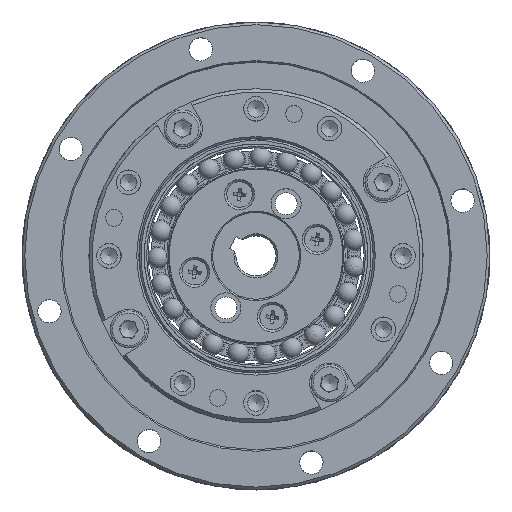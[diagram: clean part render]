
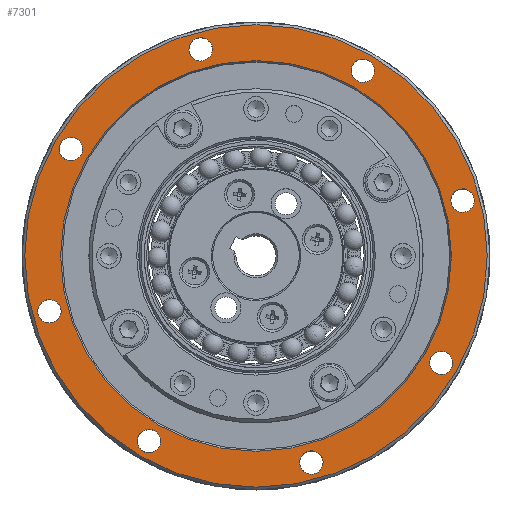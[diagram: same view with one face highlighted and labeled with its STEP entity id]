
A CAD part, top view. The second image highlights one B-rep face of the part: STEP entity #7301.
In plain terms, the highlighted planar face has unit normal (0, 0, 1).
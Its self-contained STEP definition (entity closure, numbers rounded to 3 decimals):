
#424 = VERTEX_POINT ( 'NONE', #5730 ) ;
#487 = DIRECTION ( 'NONE',  ( 0., 0., 1. ) ) ;
#500 = CARTESIAN_POINT ( 'NONE',  ( -28.588, 14.484, -7. ) ) ;
#747 = EDGE_LOOP ( 'NONE', ( #10372 ) ) ;
#830 = DIRECTION ( 'NONE',  ( -0.5, -0.866, 0. ) ) ;
#884 = FACE_BOUND ( 'NONE', #7085, .T. ) ;
#928 = DIRECTION ( 'NONE',  ( 0., 0., -1. ) ) ;
#1027 = CIRCLE ( 'NONE', #13806, 1.75 ) ;
#1090 = CARTESIAN_POINT ( 'NONE',  ( -9.157, 29.394, -7. ) ) ;
#1320 = VERTEX_POINT ( 'NONE', #9644 ) ;
#1324 = FACE_OUTER_BOUND ( 'NONE', #6972, .T. ) ;
#1351 = CARTESIAN_POINT ( 'NONE',  ( 0., 0., -7. ) ) ;
#1564 = CARTESIAN_POINT ( 'NONE',  ( -8.282, 30.91, -7. ) ) ;
#1648 = CARTESIAN_POINT ( 'NONE',  ( 16., 27.713, -7. ) ) ;
#1686 = CIRCLE ( 'NONE', #5536, 1.75 ) ;
#1843 = EDGE_CURVE ( 'NONE', #3382, #3382, #12644, .T. ) ;
#2158 = CIRCLE ( 'NONE', #15393, 1.75 ) ;
#2405 = DIRECTION ( 'NONE',  ( -0.5, -0.866, 0. ) ) ;
#2425 = VERTEX_POINT ( 'NONE', #500 ) ;
#2750 = DIRECTION ( 'NONE',  ( -0.866, 0.5, 0. ) ) ;
#2761 = CARTESIAN_POINT ( 'NONE',  ( 27.713, -16., -7. ) ) ;
#2804 = AXIS2_PLACEMENT_3D ( 'NONE', #14751, #9227, #830 ) ;
#2962 = ORIENTED_EDGE ( 'NONE', *, *, #4167, .F. ) ;
#3058 = DIRECTION ( 'NONE',  ( 0., 0., 1. ) ) ;
#3382 = VERTEX_POINT ( 'NONE', #4761 ) ;
#3392 = CARTESIAN_POINT ( 'NONE',  ( 8.282, -30.91, -7. ) ) ;
#3722 = AXIS2_PLACEMENT_3D ( 'NONE', #2761, #9931, #9872 ) ;
#3812 = CARTESIAN_POINT ( 'NONE',  ( -27.713, 16., -7. ) ) ;
#4150 = ORIENTED_EDGE ( 'NONE', *, *, #16020, .F. ) ;
#4167 = EDGE_CURVE ( 'NONE', #5772, #5772, #13051, .T. ) ;
#4370 = CIRCLE ( 'NONE', #2804, 1.75 ) ;
#4502 = CARTESIAN_POINT ( 'NONE',  ( 30.035, 6.767, -7. ) ) ;
#4544 = ORIENTED_EDGE ( 'NONE', *, *, #14419, .F. ) ;
#4761 = CARTESIAN_POINT ( 'NONE',  ( 26.838, -17.516, -7. ) ) ;
#4771 = EDGE_CURVE ( 'NONE', #7509, #7509, #10852, .T. ) ;
#4948 = CIRCLE ( 'NONE', #17996, 1.75 ) ;
#5106 = DIRECTION ( 'NONE',  ( -0.5, -0.866, 0. ) ) ;
#5283 = DIRECTION ( 'NONE',  ( 0., 0., 1. ) ) ;
#5536 = AXIS2_PLACEMENT_3D ( 'NONE', #1648, #3058, #5872 ) ;
#5691 = VERTEX_POINT ( 'NONE', #12414 ) ;
#5730 = CARTESIAN_POINT ( 'NONE',  ( -16.875, -29.228, -7. ) ) ;
#5772 = VERTEX_POINT ( 'NONE', #13161 ) ;
#5872 = DIRECTION ( 'NONE',  ( -0.5, -0.866, 0. ) ) ;
#6150 = FACE_BOUND ( 'NONE', #747, .T. ) ;
#6781 = VERTEX_POINT ( 'NONE', #11868 ) ;
#6916 = DIRECTION ( 'NONE',  ( 0., 0., 1. ) ) ;
#6972 = EDGE_LOOP ( 'NONE', ( #8978 ) ) ;
#6985 = AXIS2_PLACEMENT_3D ( 'NONE', #13607, #928, #2405 ) ;
#7014 = ORIENTED_EDGE ( 'NONE', *, *, #9447, .F. ) ;
#7085 = EDGE_LOOP ( 'NONE', ( #4544 ) ) ;
#7248 = FACE_BOUND ( 'NONE', #17570, .T. ) ;
#7301 = ADVANCED_FACE ( 'NONE', ( #17987, #1324, #6150, #8323, #7248, #12955, #9646, #884, #9215, #8757 ), #10933, .F. ) ;
#7509 = VERTEX_POINT ( 'NONE', #1090 ) ;
#7648 = DIRECTION ( 'NONE',  ( 0., 0., -1. ) ) ;
#7845 = ORIENTED_EDGE ( 'NONE', *, *, #17178, .F. ) ;
#8323 = FACE_BOUND ( 'NONE', #11143, .T. ) ;
#8636 = DIRECTION ( 'NONE',  ( 0., 0., 1. ) ) ;
#8702 = CARTESIAN_POINT ( 'NONE',  ( -17.3, -29.964, -7. ) ) ;
#8757 = FACE_BOUND ( 'NONE', #12035, .T. ) ;
#8922 = DIRECTION ( 'NONE',  ( -0.5, -0.866, 0. ) ) ;
#8978 = ORIENTED_EDGE ( 'NONE', *, *, #15559, .F. ) ;
#9050 = CARTESIAN_POINT ( 'NONE',  ( 0., 0., -7. ) ) ;
#9148 = CIRCLE ( 'NONE', #17852, 34.6 ) ;
#9215 = FACE_BOUND ( 'NONE', #14476, .T. ) ;
#9227 = DIRECTION ( 'NONE',  ( 0., 0., 1. ) ) ;
#9447 = EDGE_CURVE ( 'NONE', #5691, #5691, #12480, .T. ) ;
#9492 = DIRECTION ( 'NONE',  ( -0.5, -0.866, 0. ) ) ;
#9494 = AXIS2_PLACEMENT_3D ( 'NONE', #1564, #11241, #11304 ) ;
#9644 = CARTESIAN_POINT ( 'NONE',  ( -31.785, -9.798, -7. ) ) ;
#9646 = FACE_BOUND ( 'NONE', #11331, .T. ) ;
#9872 = DIRECTION ( 'NONE',  ( -0.5, -0.866, 0. ) ) ;
#9931 = DIRECTION ( 'NONE',  ( 0., 0., 1. ) ) ;
#10029 = ORIENTED_EDGE ( 'NONE', *, *, #10652, .F. ) ;
#10372 = ORIENTED_EDGE ( 'NONE', *, *, #4771, .F. ) ;
#10652 = EDGE_CURVE ( 'NONE', #1320, #1320, #1027, .T. ) ;
#10852 = CIRCLE ( 'NONE', #9494, 1.75 ) ;
#10933 = PLANE ( 'NONE',  #6985 ) ;
#11143 = EDGE_LOOP ( 'NONE', ( #4150 ) ) ;
#11241 = DIRECTION ( 'NONE',  ( 0., 0., 1. ) ) ;
#11304 = DIRECTION ( 'NONE',  ( -0.5, -0.866, 0. ) ) ;
#11331 = EDGE_LOOP ( 'NONE', ( #2962 ) ) ;
#11799 = CARTESIAN_POINT ( 'NONE',  ( -30.91, -8.282, -7. ) ) ;
#11854 = VERTEX_POINT ( 'NONE', #8702 ) ;
#11868 = CARTESIAN_POINT ( 'NONE',  ( 15.125, 26.197, -7. ) ) ;
#12035 = EDGE_LOOP ( 'NONE', ( #7845 ) ) ;
#12414 = CARTESIAN_POINT ( 'NONE',  ( -25.315, 14.615, -7. ) ) ;
#12480 = CIRCLE ( 'NONE', #15905, 29.231 ) ;
#12644 = CIRCLE ( 'NONE', #3722, 1.75 ) ;
#12795 = ORIENTED_EDGE ( 'NONE', *, *, #15310, .F. ) ;
#12955 = FACE_BOUND ( 'NONE', #15643, .T. ) ;
#13051 = CIRCLE ( 'NONE', #16547, 1.75 ) ;
#13161 = CARTESIAN_POINT ( 'NONE',  ( 7.407, -32.425, -7. ) ) ;
#13607 = CARTESIAN_POINT ( 'NONE',  ( -25.315, 14.615, -7. ) ) ;
#13789 = CARTESIAN_POINT ( 'NONE',  ( 30.91, 8.282, -7. ) ) ;
#13806 = AXIS2_PLACEMENT_3D ( 'NONE', #11799, #8636, #16990 ) ;
#13998 = EDGE_LOOP ( 'NONE', ( #7014 ) ) ;
#14419 = EDGE_CURVE ( 'NONE', #424, #424, #4370, .T. ) ;
#14476 = EDGE_LOOP ( 'NONE', ( #10029 ) ) ;
#14589 = DIRECTION ( 'NONE',  ( -0.5, -0.866, 0. ) ) ;
#14751 = CARTESIAN_POINT ( 'NONE',  ( -16., -27.713, -7. ) ) ;
#15310 = EDGE_CURVE ( 'NONE', #15569, #15569, #2158, .T. ) ;
#15393 = AXIS2_PLACEMENT_3D ( 'NONE', #13789, #5283, #9492 ) ;
#15559 = EDGE_CURVE ( 'NONE', #11854, #11854, #9148, .T. ) ;
#15569 = VERTEX_POINT ( 'NONE', #4502 ) ;
#15643 = EDGE_LOOP ( 'NONE', ( #16143 ) ) ;
#15905 = AXIS2_PLACEMENT_3D ( 'NONE', #1351, #6916, #2750 ) ;
#16020 = EDGE_CURVE ( 'NONE', #6781, #6781, #1686, .T. ) ;
#16143 = ORIENTED_EDGE ( 'NONE', *, *, #1843, .F. ) ;
#16547 = AXIS2_PLACEMENT_3D ( 'NONE', #3392, #487, #14589 ) ;
#16990 = DIRECTION ( 'NONE',  ( -0.5, -0.866, 0. ) ) ;
#17178 = EDGE_CURVE ( 'NONE', #2425, #2425, #4948, .T. ) ;
#17570 = EDGE_LOOP ( 'NONE', ( #12795 ) ) ;
#17656 = DIRECTION ( 'NONE',  ( 0., 0., 1. ) ) ;
#17852 = AXIS2_PLACEMENT_3D ( 'NONE', #9050, #7648, #8922 ) ;
#17987 = FACE_BOUND ( 'NONE', #13998, .T. ) ;
#17996 = AXIS2_PLACEMENT_3D ( 'NONE', #3812, #17656, #5106 ) ;
